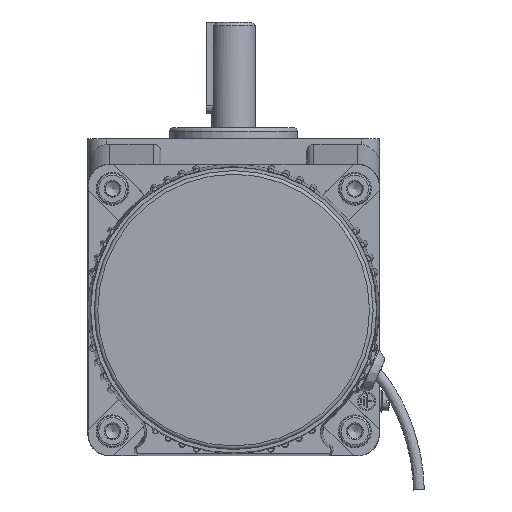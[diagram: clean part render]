
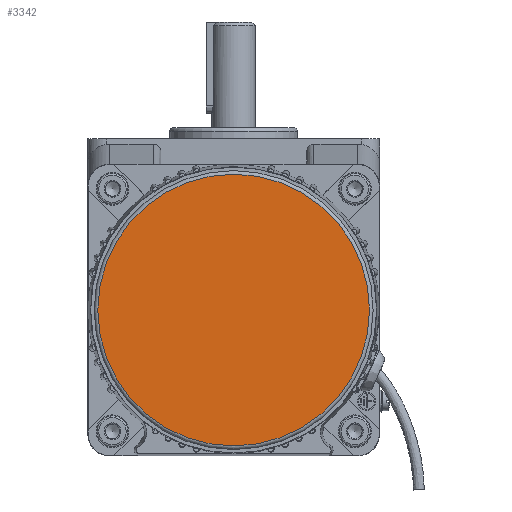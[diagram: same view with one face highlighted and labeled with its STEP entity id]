
A CAD part, left-side view. The second image highlights one B-rep face of the part: STEP entity #3342.
In plain terms, the highlighted planar face has unit normal (-1, 0, 0).
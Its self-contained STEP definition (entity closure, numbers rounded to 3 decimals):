
#3342=ADVANCED_FACE('',(#4515),#3995,.F.);
#3995=PLANE('',#13952);
#4515=FACE_OUTER_BOUND('',#5347,.T.);
#5347=EDGE_LOOP('',(#7490));
#7490=ORIENTED_EDGE('',*,*,#11178,.T.);
#9920=VERTEX_POINT('',#19721);
#11178=EDGE_CURVE('',#9920,#9920,#12900,.T.);
#12900=CIRCLE('',#13674,37.25);
#13674=AXIS2_PLACEMENT_3D('',#19720,#15286,#15287);
#13952=AXIS2_PLACEMENT_3D('',#27745,#15919,#15920);
#15286=DIRECTION('',(-1.,0.,0.));
#15287=DIRECTION('',(0.,0.,-1.));
#15919=DIRECTION('',(1.,0.,0.));
#15920=DIRECTION('',(0.,0.,-1.));
#19720=CARTESIAN_POINT('',(-86.,40.,40.));
#19721=CARTESIAN_POINT('',(-86.,40.,2.75));
#27745=CARTESIAN_POINT('',(-86.,40.,78.25));
